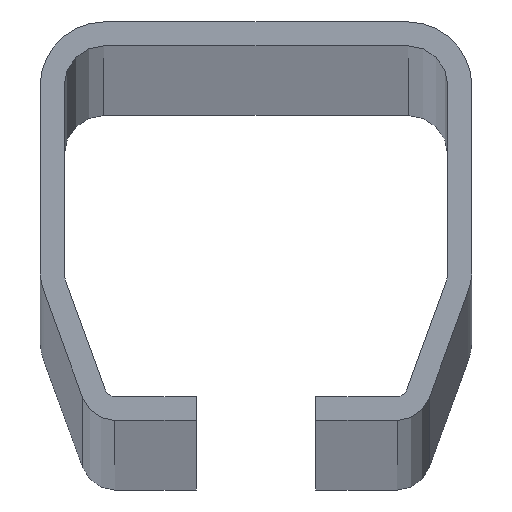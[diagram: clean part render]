
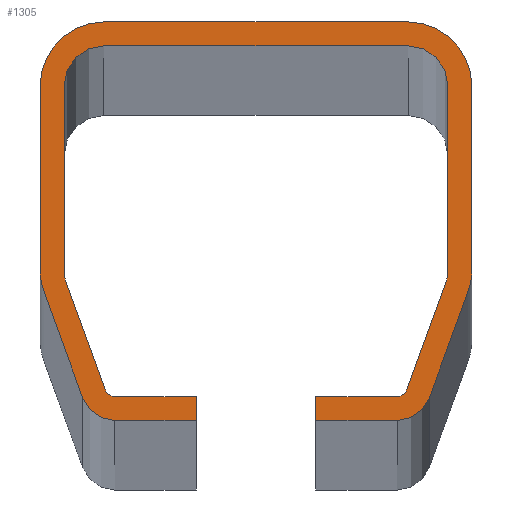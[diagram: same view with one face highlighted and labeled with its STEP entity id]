
A CAD part, top view. The second image highlights one B-rep face of the part: STEP entity #1305.
In plain terms, the highlighted planar face has unit normal (0, 0, 1).
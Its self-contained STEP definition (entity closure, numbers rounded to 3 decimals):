
#23=CIRCLE('',#1368,5.1);
#25=CIRCLE('',#1372,9.6);
#27=CIRCLE('',#1376,9.6);
#29=CIRCLE('',#1380,9.6);
#31=CIRCLE('',#1384,9.6);
#33=CIRCLE('',#1388,5.1);
#35=CIRCLE('',#1394,1.5);
#37=CIRCLE('',#1398,6.);
#39=CIRCLE('',#1402,6.);
#41=CIRCLE('',#1406,6.);
#43=CIRCLE('',#1410,6.);
#45=CIRCLE('',#1414,1.5);
#127=FACE_OUTER_BOUND('',#205,.T.);
#205=EDGE_LOOP('',(#1123,#1124,#1125,#1126,#1127,#1128,#1129,#1130,#1131,
#1132,#1133,#1134,#1135,#1136,#1137,#1138,#1139,#1140,#1141,#1142,#1143,
#1144,#1145,#1146,#1147,#1148,#1149,#1150));
#305=LINE('',#1979,#461);
#309=LINE('',#1991,#465);
#313=LINE('',#2003,#469);
#317=LINE('',#2015,#473);
#321=LINE('',#2027,#477);
#325=LINE('',#2039,#481);
#328=LINE('',#2045,#484);
#331=LINE('',#2051,#487);
#335=LINE('',#2063,#491);
#339=LINE('',#2075,#495);
#343=LINE('',#2087,#499);
#347=LINE('',#2099,#503);
#351=LINE('',#2111,#507);
#355=LINE('',#2123,#511);
#358=LINE('',#2129,#514);
#361=LINE('',#2134,#517);
#461=VECTOR('',#1609,10.);
#465=VECTOR('',#1621,10.);
#469=VECTOR('',#1633,10.);
#473=VECTOR('',#1645,10.);
#477=VECTOR('',#1657,10.);
#481=VECTOR('',#1669,10.);
#484=VECTOR('',#1674,10.);
#487=VECTOR('',#1679,10.);
#491=VECTOR('',#1691,10.);
#495=VECTOR('',#1703,10.);
#499=VECTOR('',#1715,10.);
#503=VECTOR('',#1727,10.);
#507=VECTOR('',#1739,10.);
#511=VECTOR('',#1751,10.);
#514=VECTOR('',#1756,10.);
#517=VECTOR('',#1761,10.);
#583=VERTEX_POINT('',#1969);
#584=VERTEX_POINT('',#1970);
#587=VERTEX_POINT('',#1978);
#589=VERTEX_POINT('',#1984);
#591=VERTEX_POINT('',#1990);
#593=VERTEX_POINT('',#1996);
#595=VERTEX_POINT('',#2002);
#597=VERTEX_POINT('',#2008);
#599=VERTEX_POINT('',#2014);
#601=VERTEX_POINT('',#2020);
#603=VERTEX_POINT('',#2026);
#605=VERTEX_POINT('',#2032);
#607=VERTEX_POINT('',#2038);
#609=VERTEX_POINT('',#2044);
#611=VERTEX_POINT('',#2050);
#613=VERTEX_POINT('',#2056);
#615=VERTEX_POINT('',#2062);
#617=VERTEX_POINT('',#2068);
#619=VERTEX_POINT('',#2074);
#621=VERTEX_POINT('',#2080);
#623=VERTEX_POINT('',#2086);
#625=VERTEX_POINT('',#2092);
#627=VERTEX_POINT('',#2098);
#629=VERTEX_POINT('',#2104);
#631=VERTEX_POINT('',#2110);
#633=VERTEX_POINT('',#2116);
#635=VERTEX_POINT('',#2122);
#637=VERTEX_POINT('',#2128);
#735=EDGE_CURVE('',#583,#584,#23,.T.);
#739=EDGE_CURVE('',#584,#587,#305,.T.);
#742=EDGE_CURVE('',#587,#589,#25,.T.);
#745=EDGE_CURVE('',#589,#591,#309,.T.);
#748=EDGE_CURVE('',#591,#593,#27,.T.);
#751=EDGE_CURVE('',#593,#595,#313,.T.);
#754=EDGE_CURVE('',#595,#597,#29,.T.);
#757=EDGE_CURVE('',#597,#599,#317,.T.);
#760=EDGE_CURVE('',#599,#601,#31,.T.);
#763=EDGE_CURVE('',#601,#603,#321,.T.);
#766=EDGE_CURVE('',#603,#605,#33,.T.);
#769=EDGE_CURVE('',#605,#607,#325,.T.);
#772=EDGE_CURVE('',#607,#609,#328,.T.);
#775=EDGE_CURVE('',#609,#611,#331,.T.);
#778=EDGE_CURVE('',#611,#613,#35,.T.);
#781=EDGE_CURVE('',#613,#615,#335,.T.);
#784=EDGE_CURVE('',#615,#617,#37,.T.);
#787=EDGE_CURVE('',#617,#619,#339,.T.);
#790=EDGE_CURVE('',#619,#621,#39,.T.);
#793=EDGE_CURVE('',#621,#623,#343,.T.);
#796=EDGE_CURVE('',#623,#625,#41,.T.);
#799=EDGE_CURVE('',#625,#627,#347,.T.);
#802=EDGE_CURVE('',#627,#629,#43,.T.);
#805=EDGE_CURVE('',#629,#631,#351,.T.);
#808=EDGE_CURVE('',#631,#633,#45,.T.);
#811=EDGE_CURVE('',#633,#635,#355,.T.);
#814=EDGE_CURVE('',#635,#637,#358,.T.);
#817=EDGE_CURVE('',#637,#583,#361,.T.);
#1123=ORIENTED_EDGE('',*,*,#735,.F.);
#1124=ORIENTED_EDGE('',*,*,#817,.F.);
#1125=ORIENTED_EDGE('',*,*,#814,.F.);
#1126=ORIENTED_EDGE('',*,*,#811,.F.);
#1127=ORIENTED_EDGE('',*,*,#808,.F.);
#1128=ORIENTED_EDGE('',*,*,#805,.F.);
#1129=ORIENTED_EDGE('',*,*,#802,.F.);
#1130=ORIENTED_EDGE('',*,*,#799,.F.);
#1131=ORIENTED_EDGE('',*,*,#796,.F.);
#1132=ORIENTED_EDGE('',*,*,#793,.F.);
#1133=ORIENTED_EDGE('',*,*,#790,.F.);
#1134=ORIENTED_EDGE('',*,*,#787,.F.);
#1135=ORIENTED_EDGE('',*,*,#784,.F.);
#1136=ORIENTED_EDGE('',*,*,#781,.F.);
#1137=ORIENTED_EDGE('',*,*,#778,.F.);
#1138=ORIENTED_EDGE('',*,*,#775,.F.);
#1139=ORIENTED_EDGE('',*,*,#772,.F.);
#1140=ORIENTED_EDGE('',*,*,#769,.F.);
#1141=ORIENTED_EDGE('',*,*,#766,.F.);
#1142=ORIENTED_EDGE('',*,*,#763,.F.);
#1143=ORIENTED_EDGE('',*,*,#760,.F.);
#1144=ORIENTED_EDGE('',*,*,#757,.F.);
#1145=ORIENTED_EDGE('',*,*,#754,.F.);
#1146=ORIENTED_EDGE('',*,*,#751,.F.);
#1147=ORIENTED_EDGE('',*,*,#748,.F.);
#1148=ORIENTED_EDGE('',*,*,#745,.F.);
#1149=ORIENTED_EDGE('',*,*,#742,.F.);
#1150=ORIENTED_EDGE('',*,*,#739,.F.);
#1235=PLANE('',#1419);
#1305=ADVANCED_FACE('',(#127),#1235,.T.);
#1368=AXIS2_PLACEMENT_3D('',#1971,#1601,#1602);
#1372=AXIS2_PLACEMENT_3D('',#1985,#1614,#1615);
#1376=AXIS2_PLACEMENT_3D('',#1997,#1626,#1627);
#1380=AXIS2_PLACEMENT_3D('',#2009,#1638,#1639);
#1384=AXIS2_PLACEMENT_3D('',#2021,#1650,#1651);
#1388=AXIS2_PLACEMENT_3D('',#2033,#1662,#1663);
#1394=AXIS2_PLACEMENT_3D('',#2057,#1684,#1685);
#1398=AXIS2_PLACEMENT_3D('',#2069,#1696,#1697);
#1402=AXIS2_PLACEMENT_3D('',#2081,#1708,#1709);
#1406=AXIS2_PLACEMENT_3D('',#2093,#1720,#1721);
#1410=AXIS2_PLACEMENT_3D('',#2105,#1732,#1733);
#1414=AXIS2_PLACEMENT_3D('',#2117,#1744,#1745);
#1419=AXIS2_PLACEMENT_3D('',#2136,#1763,#1764);
#1601=DIRECTION('center_axis',(0.,0.,-1.));
#1602=DIRECTION('ref_axis',(0.94,0.342,0.));
#1609=DIRECTION('',(-0.342,0.94,0.));
#1614=DIRECTION('center_axis',(0.,0.,-1.));
#1615=DIRECTION('ref_axis',(1.,0.,0.));
#1621=DIRECTION('',(0.,1.,0.));
#1626=DIRECTION('center_axis',(0.,0.,-1.));
#1627=DIRECTION('ref_axis',(0.,-1.,0.));
#1633=DIRECTION('',(1.,0.,0.));
#1638=DIRECTION('center_axis',(0.,0.,-1.));
#1639=DIRECTION('ref_axis',(-1.,0.,0.));
#1645=DIRECTION('',(0.,-1.,0.));
#1650=DIRECTION('center_axis',(0.,0.,-1.));
#1651=DIRECTION('ref_axis',(-0.94,0.342,0.));
#1657=DIRECTION('',(-0.342,-0.94,0.));
#1662=DIRECTION('center_axis',(0.,0.,-1.));
#1663=DIRECTION('ref_axis',(0.,1.,0.));
#1669=DIRECTION('',(-1.,0.,0.));
#1674=DIRECTION('',(0.,1.,0.));
#1679=DIRECTION('',(1.,0.,0.));
#1684=DIRECTION('center_axis',(0.,0.,1.));
#1685=DIRECTION('ref_axis',(0.,-1.,0.));
#1691=DIRECTION('',(0.342,0.94,0.));
#1696=DIRECTION('center_axis',(0.,0.,1.));
#1697=DIRECTION('ref_axis',(0.94,-0.342,0.));
#1703=DIRECTION('',(0.,1.,0.));
#1708=DIRECTION('center_axis',(0.,0.,1.));
#1709=DIRECTION('ref_axis',(1.,0.,0.));
#1715=DIRECTION('',(-1.,0.,0.));
#1720=DIRECTION('center_axis',(0.,0.,1.));
#1721=DIRECTION('ref_axis',(0.,1.,0.));
#1727=DIRECTION('',(0.,-1.,0.));
#1732=DIRECTION('center_axis',(0.,0.,1.));
#1733=DIRECTION('ref_axis',(-1.,0.,0.));
#1739=DIRECTION('',(0.342,-0.94,0.));
#1744=DIRECTION('center_axis',(0.,0.,1.));
#1745=DIRECTION('ref_axis',(-0.94,-0.342,0.));
#1751=DIRECTION('',(1.,0.,0.));
#1756=DIRECTION('',(0.,-1.,0.));
#1761=DIRECTION('',(-1.,0.,0.));
#1763=DIRECTION('center_axis',(0.,0.,1.));
#1764=DIRECTION('ref_axis',(1.,0.,0.));
#1969=CARTESIAN_POINT('',(-21.286,-3.6,6000.));
#1970=CARTESIAN_POINT('',(-26.078,-0.244,6000.));
#1971=CARTESIAN_POINT('Origin',(-21.286,1.5,6000.));
#1978=CARTESIAN_POINT('',(-31.921,15.809,6000.));
#1979=CARTESIAN_POINT('',(-26.078,-0.244,6000.));
#1984=CARTESIAN_POINT('',(-32.5,19.093,6000.));
#1985=CARTESIAN_POINT('Origin',(-22.9,19.093,6000.));
#1990=CARTESIAN_POINT('',(-32.5,46.8,6000.));
#1991=CARTESIAN_POINT('',(-32.5,19.093,6000.));
#1996=CARTESIAN_POINT('',(-22.9,56.4,6000.));
#1997=CARTESIAN_POINT('Origin',(-22.9,46.8,6000.));
#2002=CARTESIAN_POINT('',(22.9,56.4,6000.));
#2003=CARTESIAN_POINT('',(-22.9,56.4,6000.));
#2008=CARTESIAN_POINT('',(32.5,46.8,6000.));
#2009=CARTESIAN_POINT('Origin',(22.9,46.8,6000.));
#2014=CARTESIAN_POINT('',(32.5,19.093,6000.));
#2015=CARTESIAN_POINT('',(32.5,46.8,6000.));
#2020=CARTESIAN_POINT('',(31.921,15.809,6000.));
#2021=CARTESIAN_POINT('Origin',(22.9,19.093,6000.));
#2026=CARTESIAN_POINT('',(26.078,-0.244,6000.));
#2027=CARTESIAN_POINT('',(31.921,15.809,6000.));
#2032=CARTESIAN_POINT('',(21.286,-3.6,6000.));
#2033=CARTESIAN_POINT('Origin',(21.286,1.5,6000.));
#2038=CARTESIAN_POINT('',(9.,-3.6,6000.));
#2039=CARTESIAN_POINT('',(21.286,-3.6,6000.));
#2044=CARTESIAN_POINT('',(9.,0.,6000.));
#2045=CARTESIAN_POINT('',(9.,-3.6,6000.));
#2050=CARTESIAN_POINT('',(21.286,0.,6000.));
#2051=CARTESIAN_POINT('',(9.,0.,6000.));
#2056=CARTESIAN_POINT('',(22.695,0.987,6000.));
#2057=CARTESIAN_POINT('Origin',(21.286,1.5,6000.));
#2062=CARTESIAN_POINT('',(28.538,17.041,6000.));
#2063=CARTESIAN_POINT('',(22.695,0.987,6000.));
#2068=CARTESIAN_POINT('',(28.9,19.093,6000.));
#2069=CARTESIAN_POINT('Origin',(22.9,19.093,6000.));
#2074=CARTESIAN_POINT('',(28.9,46.8,6000.));
#2075=CARTESIAN_POINT('',(28.9,19.093,6000.));
#2080=CARTESIAN_POINT('',(22.9,52.8,6000.));
#2081=CARTESIAN_POINT('Origin',(22.9,46.8,6000.));
#2086=CARTESIAN_POINT('',(-22.9,52.8,6000.));
#2087=CARTESIAN_POINT('',(22.9,52.8,6000.));
#2092=CARTESIAN_POINT('',(-28.9,46.8,6000.));
#2093=CARTESIAN_POINT('Origin',(-22.9,46.8,6000.));
#2098=CARTESIAN_POINT('',(-28.9,19.093,6000.));
#2099=CARTESIAN_POINT('',(-28.9,46.8,6000.));
#2104=CARTESIAN_POINT('',(-28.538,17.041,6000.));
#2105=CARTESIAN_POINT('Origin',(-22.9,19.093,6000.));
#2110=CARTESIAN_POINT('',(-22.695,0.987,6000.));
#2111=CARTESIAN_POINT('',(-28.538,17.041,6000.));
#2116=CARTESIAN_POINT('',(-21.286,0.,6000.));
#2117=CARTESIAN_POINT('Origin',(-21.286,1.5,6000.));
#2122=CARTESIAN_POINT('',(-9.,0.,6000.));
#2123=CARTESIAN_POINT('',(-21.286,0.,6000.));
#2128=CARTESIAN_POINT('',(-9.,-3.6,6000.));
#2129=CARTESIAN_POINT('',(-9.,0.,6000.));
#2134=CARTESIAN_POINT('',(-9.,-3.6,6000.));
#2136=CARTESIAN_POINT('Origin',(0.,29.355,6000.));
